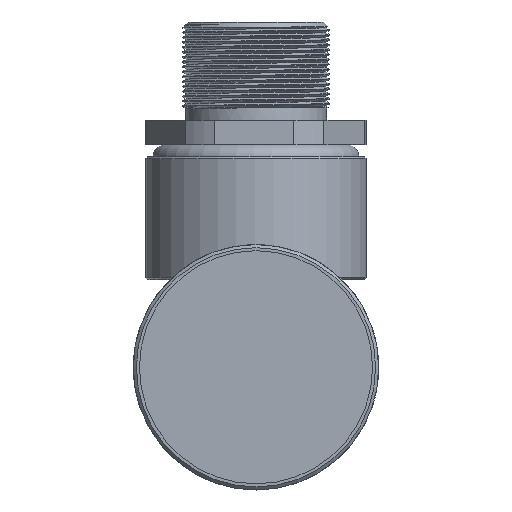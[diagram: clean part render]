
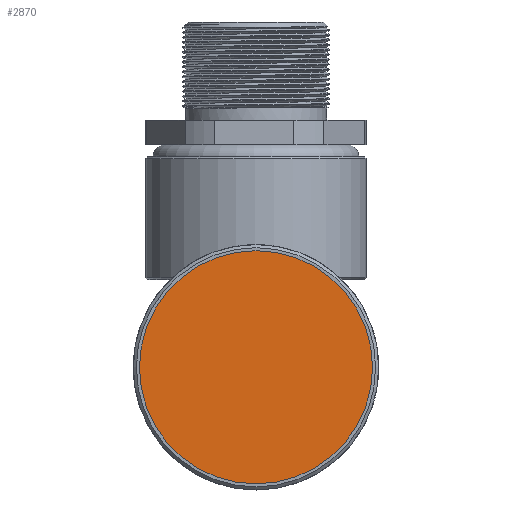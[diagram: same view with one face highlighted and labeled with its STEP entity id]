
A CAD part, left-side view. The second image highlights one B-rep face of the part: STEP entity #2870.
In plain terms, the highlighted planar face has unit normal (-1, 0, 0).
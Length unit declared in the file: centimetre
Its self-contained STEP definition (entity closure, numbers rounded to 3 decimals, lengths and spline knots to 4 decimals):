
#904=CIRCLE('',#3040,0.95);
#1000=VERTEX_POINT('',#3862);
#1447=EDGE_CURVE('',#1000,#1000,#904,.T.);
#1787=ORIENTED_EDGE('',*,*,#1447,.T.);
#2442=EDGE_LOOP('',(#1787));
#2657=FACE_BOUND('',#2442,.T.);
#2870=ADVANCED_FACE('',(#2657),#14836,.T.);
#3040=AXIS2_PLACEMENT_3D('',#3861,#3259,#3260);
#3042=AXIS2_PLACEMENT_3D('',#3865,#3263,$);
#3259=DIRECTION('',(-1.,0.,0.));
#3260=DIRECTION('',(0.,0.,0.95));
#3263=DIRECTION('',(-1.,0.,0.));
#3861=CARTESIAN_POINT('',(0.1,0.,0.));
#3862=CARTESIAN_POINT('',(0.1,0.,0.95));
#3865=CARTESIAN_POINT('',(0.1,0.,0.));
#14836=PLANE('',#3042);
